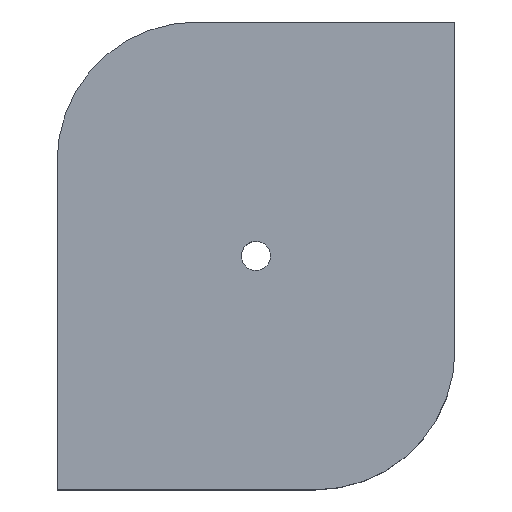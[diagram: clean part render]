
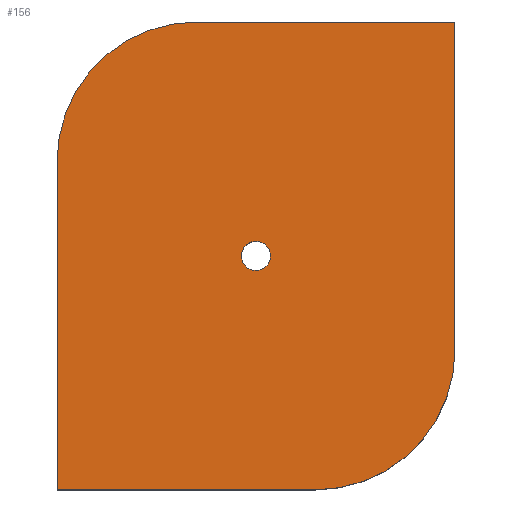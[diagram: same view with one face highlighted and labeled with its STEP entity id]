
A CAD part, top view. The second image highlights one B-rep face of the part: STEP entity #156.
In plain terms, the highlighted planar face has unit normal (0, 0, 1).
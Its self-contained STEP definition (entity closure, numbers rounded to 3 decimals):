
#63=CARTESIAN_POINT('Vertex',(53.325,69.008,29.)) ;
#77=CARTESIAN_POINT('Vertex',(60.675,64.992,29.)) ;
#80=CARTESIAN_POINT('Axis2P3D Location',(57.,67.,29.)) ;
#92=CARTESIAN_POINT('Axis2P3D Location',(0.,0.,29.)) ;
#97=CARTESIAN_POINT('Line Origine',(0.,47.,29.)) ;
#101=CARTESIAN_POINT('Vertex',(0.,94.,29.)) ;
#103=CARTESIAN_POINT('Vertex',(0.,0.,29.)) ;
#106=CARTESIAN_POINT('Line Origine',(37.,0.,29.)) ;
#110=CARTESIAN_POINT('Vertex',(74.,0.,29.)) ;
#113=CARTESIAN_POINT('Axis2P3D Location',(74.,40.,29.)) ;
#117=CARTESIAN_POINT('Vertex',(114.,40.,29.)) ;
#120=CARTESIAN_POINT('Line Origine',(114.,87.,29.)) ;
#124=CARTESIAN_POINT('Vertex',(114.,134.,29.)) ;
#127=CARTESIAN_POINT('Line Origine',(77.,134.,29.)) ;
#131=CARTESIAN_POINT('Vertex',(40.,134.,29.)) ;
#134=CARTESIAN_POINT('Axis2P3D Location',(40.,94.,29.)) ;
#147=CARTESIAN_POINT('Axis2P3D Location',(57.,67.,29.)) ;
#81=DIRECTION('Axis2P3D Direction',(0.,-0.,-1.)) ;
#93=DIRECTION('Axis2P3D Direction',(0.,0.,1.)) ;
#94=DIRECTION('Axis2P3D XDirection',(1.,0.,0.)) ;
#98=DIRECTION('Vector Direction',(0.,-1.,0.)) ;
#107=DIRECTION('Vector Direction',(1.,0.,0.)) ;
#114=DIRECTION('Axis2P3D Direction',(0.,0.,1.)) ;
#121=DIRECTION('Vector Direction',(0.,1.,0.)) ;
#128=DIRECTION('Vector Direction',(-1.,0.,0.)) ;
#135=DIRECTION('Axis2P3D Direction',(0.,0.,1.)) ;
#148=DIRECTION('Axis2P3D Direction',(0.,0.,1.)) ;
#82=AXIS2_PLACEMENT_3D('Circle Axis2P3D',#80,#81,$) ;
#95=AXIS2_PLACEMENT_3D('Plane Axis2P3D',#92,#93,#94) ;
#115=AXIS2_PLACEMENT_3D('Circle Axis2P3D',#113,#114,$) ;
#136=AXIS2_PLACEMENT_3D('Circle Axis2P3D',#134,#135,$) ;
#149=AXIS2_PLACEMENT_3D('Circle Axis2P3D',#147,#148,$) ;
#140=ORIENTED_EDGE('',*,*,#105,.T.) ;
#141=ORIENTED_EDGE('',*,*,#112,.T.) ;
#142=ORIENTED_EDGE('',*,*,#119,.F.) ;
#143=ORIENTED_EDGE('',*,*,#126,.T.) ;
#144=ORIENTED_EDGE('',*,*,#133,.T.) ;
#145=ORIENTED_EDGE('',*,*,#138,.F.) ;
#153=ORIENTED_EDGE('',*,*,#151,.F.) ;
#154=ORIENTED_EDGE('',*,*,#84,.F.) ;
#155=FACE_BOUND('',#152,.T.) ;
#99=VECTOR('Line Direction',#98,1.) ;
#108=VECTOR('Line Direction',#107,1.) ;
#122=VECTOR('Line Direction',#121,1.) ;
#129=VECTOR('Line Direction',#128,1.) ;
#156=ADVANCED_FACE('PartBody',(#146,#155),#96,.T.) ;
#83=CIRCLE('generated circle',#82,4.188) ;
#116=CIRCLE('generated circle',#115,40.) ;
#137=CIRCLE('generated circle',#136,40.) ;
#150=CIRCLE('generated circle',#149,4.188) ;
#84=EDGE_CURVE('',#78,#64,#83,.F.) ;
#105=EDGE_CURVE('',#102,#104,#100,.T.) ;
#112=EDGE_CURVE('',#104,#111,#109,.T.) ;
#119=EDGE_CURVE('',#118,#111,#116,.F.) ;
#126=EDGE_CURVE('',#118,#125,#123,.T.) ;
#133=EDGE_CURVE('',#125,#132,#130,.T.) ;
#138=EDGE_CURVE('',#102,#132,#137,.F.) ;
#151=EDGE_CURVE('',#64,#78,#150,.T.) ;
#139=EDGE_LOOP('',(#140,#141,#142,#143,#144,#145)) ;
#152=EDGE_LOOP('',(#153,#154)) ;
#146=FACE_OUTER_BOUND('',#139,.T.) ;
#100=LINE('Line',#97,#99) ;
#109=LINE('Line',#106,#108) ;
#123=LINE('Line',#120,#122) ;
#130=LINE('Line',#127,#129) ;
#96=PLANE('',#95) ;
#64=VERTEX_POINT('',#63) ;
#78=VERTEX_POINT('',#77) ;
#102=VERTEX_POINT('',#101) ;
#104=VERTEX_POINT('',#103) ;
#111=VERTEX_POINT('',#110) ;
#118=VERTEX_POINT('',#117) ;
#125=VERTEX_POINT('',#124) ;
#132=VERTEX_POINT('',#131) ;
